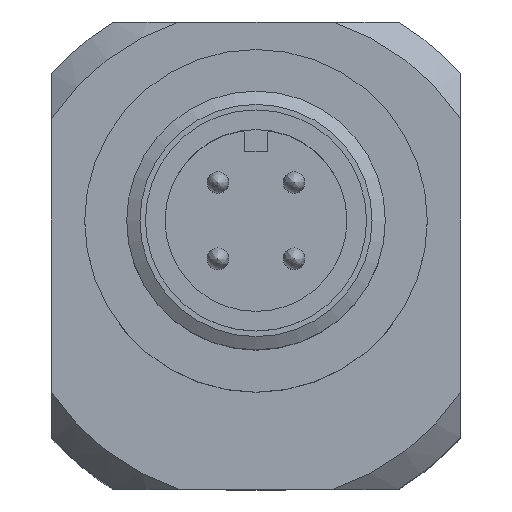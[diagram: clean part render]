
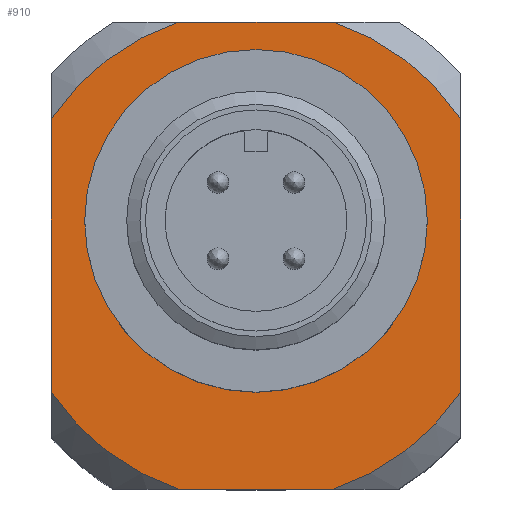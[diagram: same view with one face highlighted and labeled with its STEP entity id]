
A CAD part, top view. The second image highlights one B-rep face of the part: STEP entity #910.
In plain terms, the highlighted planar face has unit normal (0, 0, 1).
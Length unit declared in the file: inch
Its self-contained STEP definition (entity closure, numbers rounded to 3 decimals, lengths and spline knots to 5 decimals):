
#48=FACE_BOUND('',#158,.T.);
#63=PLANE('',#1028);
#104=FACE_OUTER_BOUND('',#157,.T.);
#157=EDGE_LOOP('',(#704,#705,#706,#707,#708,#709,#710,#711));
#158=EDGE_LOOP('',(#712,#713));
#204=LINE('',#1522,#247);
#206=LINE('',#1612,#249);
#207=LINE('',#1613,#250);
#208=LINE('',#1614,#251);
#247=VECTOR('',#1193,0.3937);
#249=VECTOR('',#1249,0.3937);
#250=VECTOR('',#1250,0.3937);
#251=VECTOR('',#1251,0.3937);
#298=CIRCLE('',#996,0.31);
#299=CIRCLE('',#997,0.31);
#303=CIRCLE('',#1005,0.445);
#306=CIRCLE('',#1009,0.445);
#307=CIRCLE('',#1011,0.445);
#310=CIRCLE('',#1015,0.445);
#372=VERTEX_POINT('',#1487);
#373=VERTEX_POINT('',#1488);
#376=VERTEX_POINT('',#1499);
#383=VERTEX_POINT('',#1518);
#385=VERTEX_POINT('',#1528);
#387=VERTEX_POINT('',#1533);
#390=VERTEX_POINT('',#1543);
#391=VERTEX_POINT('',#1549);
#394=VERTEX_POINT('',#1558);
#396=VERTEX_POINT('',#1564);
#476=EDGE_CURVE('',#372,#373,#298,.T.);
#477=EDGE_CURVE('',#373,#372,#299,.T.);
#489=EDGE_CURVE('',#376,#383,#204,.T.);
#493=EDGE_CURVE('',#387,#385,#303,.T.);
#498=EDGE_CURVE('',#383,#390,#306,.T.);
#499=EDGE_CURVE('',#391,#376,#307,.T.);
#505=EDGE_CURVE('',#394,#396,#310,.T.);
#520=EDGE_CURVE('',#396,#391,#206,.T.);
#521=EDGE_CURVE('',#390,#387,#207,.T.);
#522=EDGE_CURVE('',#385,#394,#208,.T.);
#704=ORIENTED_EDGE('',*,*,#505,.T.);
#705=ORIENTED_EDGE('',*,*,#520,.T.);
#706=ORIENTED_EDGE('',*,*,#499,.T.);
#707=ORIENTED_EDGE('',*,*,#489,.T.);
#708=ORIENTED_EDGE('',*,*,#498,.T.);
#709=ORIENTED_EDGE('',*,*,#521,.T.);
#710=ORIENTED_EDGE('',*,*,#493,.T.);
#711=ORIENTED_EDGE('',*,*,#522,.T.);
#712=ORIENTED_EDGE('',*,*,#476,.T.);
#713=ORIENTED_EDGE('',*,*,#477,.T.);
#910=ADVANCED_FACE('',(#104,#48),#63,.T.);
#996=AXIS2_PLACEMENT_3D('',#1489,#1176,#1177);
#997=AXIS2_PLACEMENT_3D('',#1490,#1178,#1179);
#1005=AXIS2_PLACEMENT_3D('',#1534,#1201,#1202);
#1009=AXIS2_PLACEMENT_3D('',#1547,#1209,#1210);
#1011=AXIS2_PLACEMENT_3D('',#1550,#1213,#1214);
#1015=AXIS2_PLACEMENT_3D('',#1568,#1221,#1222);
#1028=AXIS2_PLACEMENT_3D('',#1611,#1247,#1248);
#1176=DIRECTION('center_axis',(0.,0.,-1.));
#1177=DIRECTION('ref_axis',(-1.,0.,0.));
#1178=DIRECTION('center_axis',(0.,0.,-1.));
#1179=DIRECTION('ref_axis',(-1.,0.,0.));
#1193=DIRECTION('',(-1.,0.,0.));
#1201=DIRECTION('center_axis',(0.,0.,1.));
#1202=DIRECTION('ref_axis',(0.,1.,0.));
#1209=DIRECTION('center_axis',(0.,0.,1.));
#1210=DIRECTION('ref_axis',(0.,1.,0.));
#1213=DIRECTION('center_axis',(0.,0.,1.));
#1214=DIRECTION('ref_axis',(0.,1.,0.));
#1221=DIRECTION('center_axis',(0.,0.,1.));
#1222=DIRECTION('ref_axis',(0.,1.,0.));
#1247=DIRECTION('center_axis',(0.,0.,1.));
#1248=DIRECTION('ref_axis',(1.,0.,0.));
#1249=DIRECTION('',(0.,1.,0.));
#1250=DIRECTION('',(0.,-1.,0.));
#1251=DIRECTION('',(1.,0.,0.));
#1487=CARTESIAN_POINT('',(-0.31,0.0625,0.5));
#1488=CARTESIAN_POINT('',(0.31,0.0625,0.5));
#1489=CARTESIAN_POINT('Origin',(0.,0.0625,
0.5));
#1490=CARTESIAN_POINT('Origin',(0.,0.0625,
0.5));
#1499=CARTESIAN_POINT('',(0.13971,0.4225,0.5));
#1518=CARTESIAN_POINT('',(-0.13971,0.4225,0.5));
#1522=CARTESIAN_POINT('',(0.25791,0.4225,0.5));
#1528=CARTESIAN_POINT('',(-0.13971,-0.4225,0.5));
#1533=CARTESIAN_POINT('',(-0.37,-0.24723,0.5));
#1534=CARTESIAN_POINT('Origin',(0.,0.,0.5));
#1543=CARTESIAN_POINT('',(-0.37,0.24723,0.5));
#1547=CARTESIAN_POINT('Origin',(0.,0.,0.5));
#1549=CARTESIAN_POINT('',(0.37,0.24723,0.5));
#1550=CARTESIAN_POINT('Origin',(0.,0.,0.5));
#1558=CARTESIAN_POINT('',(0.13971,-0.4225,0.5));
#1564=CARTESIAN_POINT('',(0.37,-0.24723,0.5));
#1568=CARTESIAN_POINT('Origin',(0.,0.,0.5));
#1611=CARTESIAN_POINT('Origin',(0.,0.,
0.5));
#1612=CARTESIAN_POINT('',(0.37,-0.32882,0.5));
#1613=CARTESIAN_POINT('',(-0.37,0.32882,0.5));
#1614=CARTESIAN_POINT('',(-0.25791,-0.4225,0.5));
